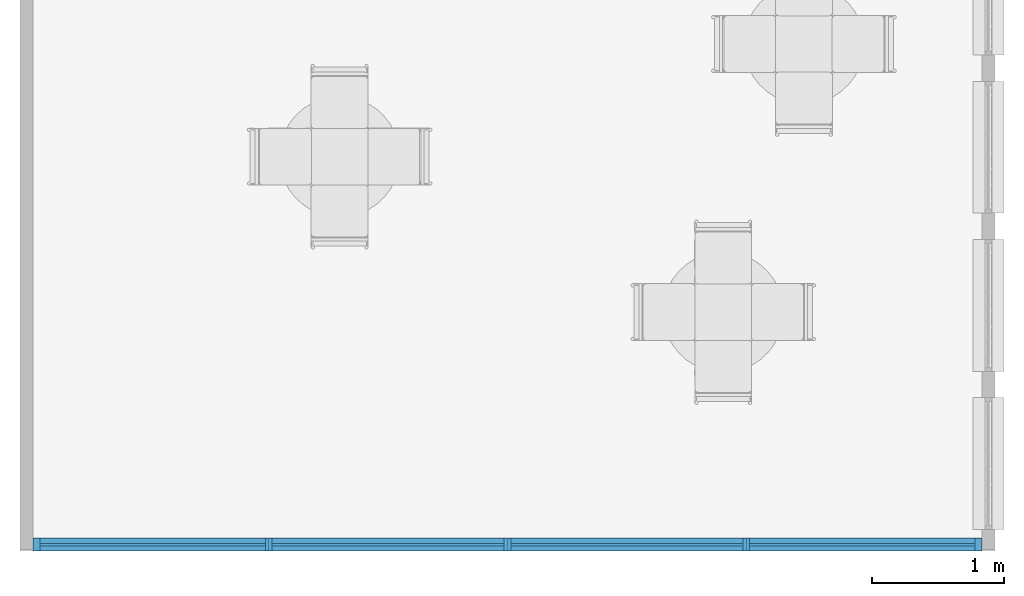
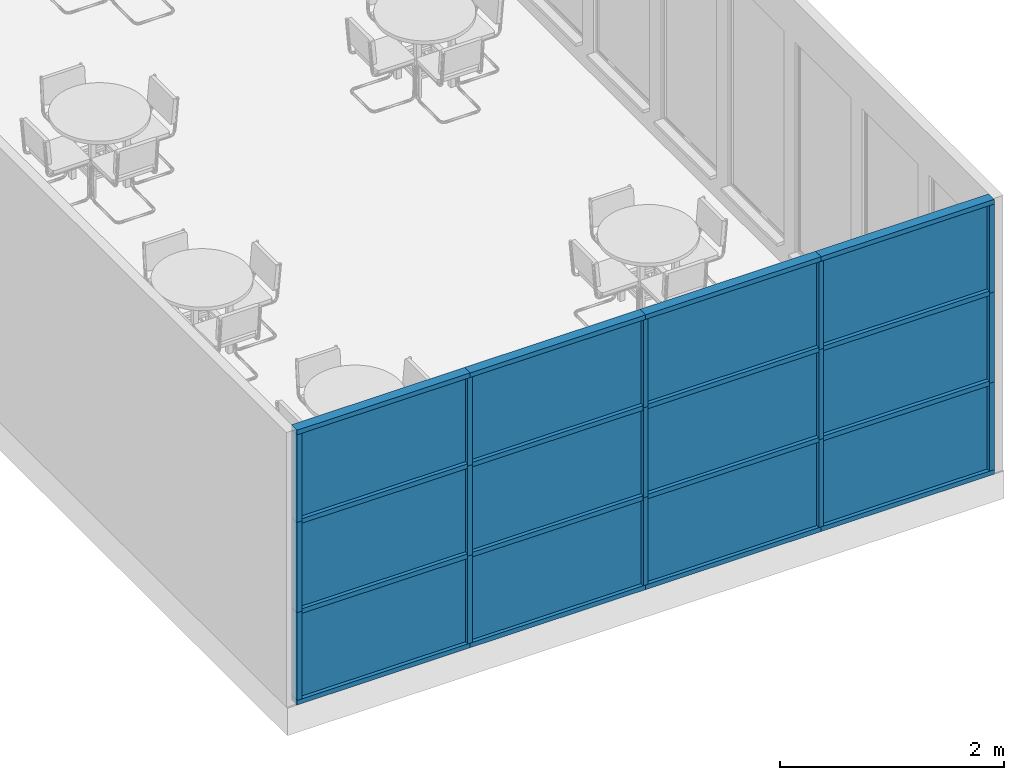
# One storey, part 1 of 11: 31 members, 12 plates, 1 element without a shape of its own.
"""IFC2X3 building model written with IfcOpenShell, lengths in metres."""

from ifc_helpers import new_model, entity, si_unit, converted_unit, derived_unit, direction, frame, origin, origin_2d_with_axis, place, context, subcontext, project, spatial, rectangle, extrude, source, transform, mapped, material, type_object, type_shapes, element, aggregate, save


model = new_model("IFC2X3")

# Units and contexts
model_context = context("Model", 3, precision=1e-05, world=origin(), true_north=direction((6.12303176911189e-17, 1.0)))
body_context = subcontext(model_context, "Body", "Model", "MODEL_VIEW")
ifc_project = project(units=[si_unit("LENGTHUNIT", "METRE"), si_unit("AREAUNIT", "SQUARE_METRE"), si_unit("VOLUMEUNIT", "CUBIC_METRE"), converted_unit("PLANEANGLEUNIT", "DEGREE", entity("IfcRatioMeasure", 0.0174532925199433), si_unit("PLANEANGLEUNIT", "RADIAN"), dimensions=[0, 0, 0, 0, 0, 0, 0]), si_unit("MASSUNIT", "GRAM", prefix="KILO"), derived_unit("MASSDENSITYUNIT", [(si_unit("MASSUNIT", "GRAM", prefix="KILO"), 1), (si_unit("LENGTHUNIT", "METRE"), -3)]), derived_unit("MOMENTOFINERTIAUNIT", [(si_unit("LENGTHUNIT", "METRE"), 4)]), si_unit("TIMEUNIT", "SECOND"), si_unit("FREQUENCYUNIT", "HERTZ"), si_unit("THERMODYNAMICTEMPERATUREUNIT", "DEGREE_CELSIUS"), derived_unit("THERMALTRANSMITTANCEUNIT", [(si_unit("MASSUNIT", "GRAM", prefix="KILO"), 1), (si_unit("THERMODYNAMICTEMPERATUREUNIT", "KELVIN"), -1), (si_unit("TIMEUNIT", "SECOND"), -3)]), derived_unit("VOLUMETRICFLOWRATEUNIT", [(si_unit("LENGTHUNIT", "METRE"), 3), (si_unit("TIMEUNIT", "SECOND"), -1)]), si_unit("ELECTRICCURRENTUNIT", "AMPERE"), si_unit("ELECTRICVOLTAGEUNIT", "VOLT"), si_unit("POWERUNIT", "WATT"), si_unit("FORCEUNIT", "NEWTON", prefix="KILO"), si_unit("ILLUMINANCEUNIT", "LUX"), si_unit("LUMINOUSFLUXUNIT", "LUMEN"), si_unit("LUMINOUSINTENSITYUNIT", "CANDELA"), derived_unit("USERDEFINED", [(si_unit("MASSUNIT", "GRAM", prefix="KILO"), -1), (si_unit("LENGTHUNIT", "METRE"), -2), (si_unit("TIMEUNIT", "SECOND"), 3), (si_unit("LUMINOUSFLUXUNIT", "LUMEN"), 1)]), derived_unit("LINEARVELOCITYUNIT", [(si_unit("LENGTHUNIT", "METRE"), 1), (si_unit("TIMEUNIT", "SECOND"), -1)]), si_unit("PRESSUREUNIT", "PASCAL"), derived_unit("USERDEFINED", [(si_unit("LENGTHUNIT", "METRE"), -2), (si_unit("MASSUNIT", "GRAM", prefix="KILO"), 1), (si_unit("TIMEUNIT", "SECOND"), -2)]), derived_unit("LINEARFORCEUNIT", [(si_unit("MASSUNIT", "GRAM", prefix="KILO"), 1), (si_unit("LENGTHUNIT", "METRE"), 1), (si_unit("TIMEUNIT", "SECOND"), -2), (si_unit("LENGTHUNIT", "METRE"), -1)]), derived_unit("PLANARFORCEUNIT", [(si_unit("MASSUNIT", "GRAM", prefix="KILO"), 1), (si_unit("LENGTHUNIT", "METRE"), 1), (si_unit("TIMEUNIT", "SECOND"), -2), (si_unit("LENGTHUNIT", "METRE"), -2)])], contexts=[model_context])

# Site, building, storey
site_placement = place(None, origin())
site = spatial("IfcSite", under=ifc_project, at=site_placement, Name="Default", CompositionType="ELEMENT")
building_placement = place(site_placement, origin())
building = spatial("IfcBuilding", under=site, at=building_placement, CompositionType="ELEMENT")
storey_placement = place(building_placement, origin())
storey = spatial("IfcBuildingStorey", under=building, at=storey_placement, Name="Nivel 1", CompositionType="ELEMENT", Elevation=0.0)

# Curtain wall, members, plates
curtain_wall_type = type_object("IfcCurtainWallType", Name="Muro cortina:Muro cortina - 300 x 200 cm", PredefinedType="NOTDEFINED")
curtain_wall_placement = place(storey_placement, origin())
curtain_wall = element("IfcCurtainWall", 1, at=curtain_wall_placement, inside=storey, type_object=curtain_wall_type, Name="Muro cortina:Muro cortina - 300 x 200 cm", ObjectType="Muro cortina:Muro cortina - 300 x 200 cm")
ifc_material_1 = material(Name="<Unnamed>")
member_type_1 = type_object("IfcMemberType", Name="Montante rectangular:Montante rectangular - 5 x 10 cm", PredefinedType="MULLION", material=ifc_material_1)
shared_shape_1 = source(origin(), body_context, "Body", "SweptSolid", [
    extrude(rectangle(XDim=0.1, YDim=0.05, at=origin_2d_with_axis()), frame((-0.025, 0.0, -0.958333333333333), z_axis=(0.0, 0.0, 1.0), x_axis=(0.0, -1.0, 0.0)), (0.0, 0.0, 1.0), 0.958333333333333),
])
type_shapes(member_type_1, [shared_shape_1])
member_1_placement = place(storey_placement, frame((3.11695689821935, -7.46501707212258, 0.05), z_axis=(0.0, 0.0, -1.0), x_axis=(1.0, 0.0, 0.0)))
member_1 = element("IfcMember", 2, at=member_1_placement, type_object=member_type_1, Name="Montante rectangular:Montante rectangular - 5 x 10 cm", ObjectType="Montante rectangular:Montante rectangular - 5 x 10 cm", context=body_context, shape_type="MappedRepresentation", body=[
    mapped(shared_shape_1, transform((0.0, 0.0, 0.0), scale=1.0)),
])
member_type_2 = type_object("IfcMemberType", Name="Montante rectangular:Montante rectangular - 5 x 10 cm", PredefinedType="MULLION", material=ifc_material_1)
shared_shape_2 = source(origin(), body_context, "Body", "SweptSolid", [
    extrude(rectangle(XDim=0.1, YDim=0.05, at=origin_2d_with_axis()), frame((-0.025, 0.0, -0.958333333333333), z_axis=(0.0, 0.0, 1.0), x_axis=(0.0, -1.0, 0.0)), (0.0, 0.0, 1.0), 0.958333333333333),
])
type_shapes(member_type_2, [shared_shape_2])
member_2_placement = place(storey_placement, frame((-4.08304310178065, -7.46501707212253, 2.95), z_axis=(0.0, 0.0, 1.0), x_axis=(-1.0, 0.0, 0.0)))
member_2 = element("IfcMember", 3, at=member_2_placement, type_object=member_type_2, Name="Montante rectangular:Montante rectangular - 5 x 10 cm", ObjectType="Montante rectangular:Montante rectangular - 5 x 10 cm", context=body_context, shape_type="MappedRepresentation", body=[
    mapped(shared_shape_2, transform((0.0, 0.0, 0.0), scale=1.0)),
])
member_type_3 = type_object("IfcMemberType", Name="Montante rectangular:Montante rectangular - 5 x 10 cm", PredefinedType="MULLION", material=ifc_material_1)
shared_shape_3 = source(origin(), body_context, "Body", "SweptSolid", [
    extrude(rectangle(XDim=0.1, YDim=0.05, at=origin_2d_with_axis()), frame((0.0, 0.0, -0.958333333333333), z_axis=(0.0, 0.0, 1.0), x_axis=(0.0, -1.0, 0.0)), (0.0, 0.0, 1.0), 0.958333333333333),
])
type_shapes(member_type_3, [shared_shape_3])
member_3_placement = place(storey_placement, frame((-2.29554310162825, -7.46501707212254, 0.05), z_axis=(0.0, 0.0, -1.0), x_axis=(1.0, 0.0, 0.0)))
member_3 = element("IfcMember", 4, at=member_3_placement, type_object=member_type_3, Name="Montante rectangular:Montante rectangular - 5 x 10 cm", ObjectType="Montante rectangular:Montante rectangular - 5 x 10 cm", context=body_context, shape_type="MappedRepresentation", body=[
    mapped(shared_shape_3, transform((0.0, 0.0, 0.0), scale=1.0)),
])
member_4_placement = place(storey_placement, frame((-0.483043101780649, -7.46501707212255, 0.05), z_axis=(0.0, 0.0, -1.0), x_axis=(1.0, 0.0, 0.0)))
member_4 = element("IfcMember", 5, at=member_4_placement, type_object=member_type_3, Name="Montante rectangular:Montante rectangular - 5 x 10 cm", ObjectType="Montante rectangular:Montante rectangular - 5 x 10 cm", context=body_context, shape_type="MappedRepresentation", body=[
    mapped(shared_shape_3, transform((0.0, 0.0, 0.0), scale=1.0)),
])
member_5_placement = place(storey_placement, frame((1.32945689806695, -7.46501707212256, 0.05), z_axis=(0.0, 0.0, -1.0), x_axis=(1.0, 0.0, 0.0)))
member_5 = element("IfcMember", 6, at=member_5_placement, type_object=member_type_3, Name="Montante rectangular:Montante rectangular - 5 x 10 cm", ObjectType="Montante rectangular:Montante rectangular - 5 x 10 cm", context=body_context, shape_type="MappedRepresentation", body=[
    mapped(shared_shape_3, transform((0.0, 0.0, 0.0), scale=1.0)),
])
member_type_4 = type_object("IfcMemberType", Name="Montante rectangular:Montante rectangular - 5 x 10 cm", PredefinedType="MULLION", material=ifc_material_1)
shared_shape_4 = source(origin(), body_context, "Body", "SweptSolid", [
    extrude(rectangle(XDim=0.1, YDim=0.05, at=origin_2d_with_axis()), frame((-0.025, 0.0, -0.983333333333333), z_axis=(0.0, 0.0, 1.0), x_axis=(0.0, -1.0, 0.0)), (0.0, 0.0, 1.0), 0.983333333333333),
])
type_shapes(member_type_4, [shared_shape_4])
member_6_placement = place(storey_placement, frame((3.11695689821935, -7.46501707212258, 1.00833333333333), z_axis=(0.0, 0.0, -1.0), x_axis=(1.0, 0.0, 0.0)))
member_6 = element("IfcMember", 7, at=member_6_placement, type_object=member_type_4, Name="Montante rectangular:Montante rectangular - 5 x 10 cm", ObjectType="Montante rectangular:Montante rectangular - 5 x 10 cm", context=body_context, shape_type="MappedRepresentation", body=[
    mapped(shared_shape_4, transform((0.0, 0.0, 0.0), scale=1.0)),
])
member_type_5 = type_object("IfcMemberType", Name="Montante rectangular:Montante rectangular - 5 x 10 cm", PredefinedType="MULLION", material=ifc_material_1)
shared_shape_5 = source(origin(), body_context, "Body", "SweptSolid", [
    extrude(rectangle(XDim=0.1, YDim=0.05, at=origin_2d_with_axis()), frame((-0.025, 0.0, -0.958333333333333), z_axis=(0.0, 0.0, 1.0), x_axis=(0.0, -1.0, 0.0)), (0.0, 0.0, 1.0), 0.958333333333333),
])
type_shapes(member_type_5, [shared_shape_5])
member_7_placement = place(storey_placement, frame((3.11695689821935, -7.46501707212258, 1.99166666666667), z_axis=(0.0, 0.0, -1.0), x_axis=(1.0, 0.0, 0.0)))
member_7 = element("IfcMember", 8, at=member_7_placement, type_object=member_type_5, Name="Montante rectangular:Montante rectangular - 5 x 10 cm", ObjectType="Montante rectangular:Montante rectangular - 5 x 10 cm", context=body_context, shape_type="MappedRepresentation", body=[
    mapped(shared_shape_5, transform((0.0, 0.0, 0.0), scale=1.0)),
])
member_type_6 = type_object("IfcMemberType", Name="Montante rectangular:Montante rectangular - 5 x 10 cm", PredefinedType="MULLION", material=ifc_material_1)
shared_shape_6 = source(origin(), body_context, "Body", "SweptSolid", [
    extrude(rectangle(XDim=0.1, YDim=0.05, at=origin_2d_with_axis()), frame((-0.025, 0.0, -0.958333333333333), z_axis=(0.0, 0.0, 1.0), x_axis=(0.0, -1.0, 0.0)), (0.0, 0.0, 1.0), 0.958333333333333),
])
type_shapes(member_type_6, [shared_shape_6])
member_8_placement = place(storey_placement, frame((-4.08304310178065, -7.46501707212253, 1.00833333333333), z_axis=(0.0, 0.0, 1.0), x_axis=(-1.0, 0.0, 0.0)))
member_8 = element("IfcMember", 9, at=member_8_placement, type_object=member_type_6, Name="Montante rectangular:Montante rectangular - 5 x 10 cm", ObjectType="Montante rectangular:Montante rectangular - 5 x 10 cm", context=body_context, shape_type="MappedRepresentation", body=[
    mapped(shared_shape_6, transform((0.0, 0.0, 0.0), scale=1.0)),
])
member_type_7 = type_object("IfcMemberType", Name="Montante rectangular:Montante rectangular - 5 x 10 cm", PredefinedType="MULLION", material=ifc_material_1)
shared_shape_7 = source(origin(), body_context, "Body", "SweptSolid", [
    extrude(rectangle(XDim=0.1, YDim=0.05, at=origin_2d_with_axis()), frame((-0.025, 0.0, -0.983333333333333), z_axis=(0.0, 0.0, 1.0), x_axis=(0.0, -1.0, 0.0)), (0.0, 0.0, 1.0), 0.983333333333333),
])
type_shapes(member_type_7, [shared_shape_7])
member_9_placement = place(storey_placement, frame((-4.08304310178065, -7.46501707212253, 1.99166666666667), z_axis=(0.0, 0.0, 1.0), x_axis=(-1.0, 0.0, 0.0)))
member_9 = element("IfcMember", 10, at=member_9_placement, type_object=member_type_7, Name="Montante rectangular:Montante rectangular - 5 x 10 cm", ObjectType="Montante rectangular:Montante rectangular - 5 x 10 cm", context=body_context, shape_type="MappedRepresentation", body=[
    mapped(shared_shape_7, transform((0.0, 0.0, 0.0), scale=1.0)),
])
member_type_8 = type_object("IfcMemberType", Name="Montante rectangular:Montante rectangular - 5 x 10 cm", PredefinedType="MULLION", material=ifc_material_1)
shared_shape_8 = source(origin(), body_context, "Body", "SweptSolid", [
    extrude(rectangle(XDim=0.1, YDim=0.05, at=origin_2d_with_axis()), frame((0.0, 0.0, -0.983333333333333), z_axis=(0.0, 0.0, 1.0), x_axis=(0.0, -1.0, 0.0)), (0.0, 0.0, 1.0), 0.983333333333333),
])
type_shapes(member_type_8, [shared_shape_8])
member_10_placement = place(storey_placement, frame((-2.29554310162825, -7.46501707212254, 1.00833333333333), z_axis=(0.0, 0.0, -1.0), x_axis=(1.0, 0.0, 0.0)))
member_10 = element("IfcMember", 11, at=member_10_placement, type_object=member_type_8, Name="Montante rectangular:Montante rectangular - 5 x 10 cm", ObjectType="Montante rectangular:Montante rectangular - 5 x 10 cm", context=body_context, shape_type="MappedRepresentation", body=[
    mapped(shared_shape_8, transform((0.0, 0.0, 0.0), scale=1.0)),
])
member_11_placement = place(storey_placement, frame((-0.483043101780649, -7.46501707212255, 1.00833333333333), z_axis=(0.0, 0.0, -1.0), x_axis=(1.0, 0.0, 0.0)))
member_11 = element("IfcMember", 12, at=member_11_placement, type_object=member_type_8, Name="Montante rectangular:Montante rectangular - 5 x 10 cm", ObjectType="Montante rectangular:Montante rectangular - 5 x 10 cm", context=body_context, shape_type="MappedRepresentation", body=[
    mapped(shared_shape_8, transform((0.0, 0.0, 0.0), scale=1.0)),
])
member_12_placement = place(storey_placement, frame((1.32945689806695, -7.46501707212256, 1.00833333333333), z_axis=(0.0, 0.0, -1.0), x_axis=(1.0, 0.0, 0.0)))
member_12 = element("IfcMember", 13, at=member_12_placement, type_object=member_type_8, Name="Montante rectangular:Montante rectangular - 5 x 10 cm", ObjectType="Montante rectangular:Montante rectangular - 5 x 10 cm", context=body_context, shape_type="MappedRepresentation", body=[
    mapped(shared_shape_8, transform((0.0, 0.0, 0.0), scale=1.0)),
])
member_type_9 = type_object("IfcMemberType", Name="Montante rectangular:Montante rectangular - 5 x 10 cm", PredefinedType="MULLION", material=ifc_material_1)
shared_shape_9 = source(origin(), body_context, "Body", "SweptSolid", [
    extrude(rectangle(XDim=0.1, YDim=0.05, at=origin_2d_with_axis()), frame((0.0, 0.0, -0.958333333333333), z_axis=(0.0, 0.0, 1.0), x_axis=(0.0, -1.0, 0.0)), (0.0, 0.0, 1.0), 0.958333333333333),
])
type_shapes(member_type_9, [shared_shape_9])
member_13_placement = place(storey_placement, frame((-2.29554310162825, -7.46501707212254, 1.99166666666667), z_axis=(0.0, 0.0, -1.0), x_axis=(1.0, 0.0, 0.0)))
member_13 = element("IfcMember", 14, at=member_13_placement, type_object=member_type_9, Name="Montante rectangular:Montante rectangular - 5 x 10 cm", ObjectType="Montante rectangular:Montante rectangular - 5 x 10 cm", context=body_context, shape_type="MappedRepresentation", body=[
    mapped(shared_shape_9, transform((0.0, 0.0, 0.0), scale=1.0)),
])
member_14_placement = place(storey_placement, frame((-0.48304310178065, -7.46501707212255, 1.99166666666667), z_axis=(0.0, 0.0, -1.0), x_axis=(1.0, 0.0, 0.0)))
member_14 = element("IfcMember", 15, at=member_14_placement, type_object=member_type_9, Name="Montante rectangular:Montante rectangular - 5 x 10 cm", ObjectType="Montante rectangular:Montante rectangular - 5 x 10 cm", context=body_context, shape_type="MappedRepresentation", body=[
    mapped(shared_shape_9, transform((0.0, 0.0, 0.0), scale=1.0)),
])
member_15_placement = place(storey_placement, frame((1.32945689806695, -7.46501707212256, 1.99166666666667), z_axis=(0.0, 0.0, -1.0), x_axis=(1.0, 0.0, 0.0)))
member_15 = element("IfcMember", 16, at=member_15_placement, type_object=member_type_9, Name="Montante rectangular:Montante rectangular - 5 x 10 cm", ObjectType="Montante rectangular:Montante rectangular - 5 x 10 cm", context=body_context, shape_type="MappedRepresentation", body=[
    mapped(shared_shape_9, transform((0.0, 0.0, 0.0), scale=1.0)),
])
member_type_10 = type_object("IfcMemberType", Name="Montante rectangular:Montante rectangular - 5 x 10 cm", PredefinedType="MULLION", material=ifc_material_1)
shared_shape_10 = source(origin(), body_context, "Body", "SweptSolid", [
    extrude(rectangle(XDim=0.1, YDim=0.05, at=origin_2d_with_axis()), frame((0.0, 0.0, -1.7125000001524), z_axis=(0.0, 0.0, 1.0), x_axis=(0.0, -1.0, 0.0)), (0.0, 0.0, 1.0), 1.7125000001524),
])
type_shapes(member_type_10, [shared_shape_10])
member_16_placement = place(storey_placement, frame((-2.32054310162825, -7.46501707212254, 1.00833333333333), z_axis=(1.0, 0.0, 0.0), x_axis=(0.0, 0.0, 1.0)))
member_16 = element("IfcMember", 17, at=member_16_placement, type_object=member_type_10, Name="Montante rectangular:Montante rectangular - 5 x 10 cm", ObjectType="Montante rectangular:Montante rectangular - 5 x 10 cm", context=body_context, shape_type="MappedRepresentation", body=[
    mapped(shared_shape_10, transform((0.0, 0.0, 0.0), scale=1.0)),
])
member_17_placement = place(storey_placement, frame((3.06695689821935, -7.46501707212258, 1.00833333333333), z_axis=(1.0, 0.0, 0.0), x_axis=(0.0, 0.0, 1.0)))
member_17 = element("IfcMember", 18, at=member_17_placement, type_object=member_type_10, Name="Montante rectangular:Montante rectangular - 5 x 10 cm", ObjectType="Montante rectangular:Montante rectangular - 5 x 10 cm", context=body_context, shape_type="MappedRepresentation", body=[
    mapped(shared_shape_10, transform((0.0, 0.0, 0.0), scale=1.0)),
])
member_18_placement = place(storey_placement, frame((-2.32054310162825, -7.46501707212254, 1.99166666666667), z_axis=(1.0, 0.0, 0.0), x_axis=(0.0, 0.0, 1.0)))
member_18 = element("IfcMember", 19, at=member_18_placement, type_object=member_type_10, Name="Montante rectangular:Montante rectangular - 5 x 10 cm", ObjectType="Montante rectangular:Montante rectangular - 5 x 10 cm", context=body_context, shape_type="MappedRepresentation", body=[
    mapped(shared_shape_10, transform((0.0, 0.0, 0.0), scale=1.0)),
])
member_19_placement = place(storey_placement, frame((3.06695689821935, -7.46501707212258, 1.99166666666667), z_axis=(1.0, 0.0, 0.0), x_axis=(0.0, 0.0, 1.0)))
member_19 = element("IfcMember", 20, at=member_19_placement, type_object=member_type_10, Name="Montante rectangular:Montante rectangular - 5 x 10 cm", ObjectType="Montante rectangular:Montante rectangular - 5 x 10 cm", context=body_context, shape_type="MappedRepresentation", body=[
    mapped(shared_shape_10, transform((0.0, 0.0, 0.0), scale=1.0)),
])
member_type_11 = type_object("IfcMemberType", Name="Montante rectangular:Montante rectangular - 5 x 10 cm", PredefinedType="MULLION", material=ifc_material_1)
shared_shape_11 = source(origin(), body_context, "Body", "SweptSolid", [
    extrude(rectangle(XDim=0.1, YDim=0.05, at=origin_2d_with_axis()), frame((0.0, 0.0, -1.7624999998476), z_axis=(0.0, 0.0, 1.0), x_axis=(0.0, -1.0, 0.0)), (0.0, 0.0, 1.0), 1.7624999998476),
])
type_shapes(member_type_11, [shared_shape_11])
member_20_placement = place(storey_placement, frame((-0.508043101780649, -7.46501707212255, 1.00833333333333), z_axis=(1.0, 0.0, 0.0), x_axis=(0.0, 0.0, 1.0)))
member_20 = element("IfcMember", 21, at=member_20_placement, type_object=member_type_11, Name="Montante rectangular:Montante rectangular - 5 x 10 cm", ObjectType="Montante rectangular:Montante rectangular - 5 x 10 cm", context=body_context, shape_type="MappedRepresentation", body=[
    mapped(shared_shape_11, transform((0.0, 0.0, 0.0), scale=1.0)),
])
member_21_placement = place(storey_placement, frame((1.30445689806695, -7.46501707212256, 1.00833333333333), z_axis=(1.0, 0.0, 0.0), x_axis=(0.0, 0.0, 1.0)))
member_21 = element("IfcMember", 22, at=member_21_placement, type_object=member_type_11, Name="Montante rectangular:Montante rectangular - 5 x 10 cm", ObjectType="Montante rectangular:Montante rectangular - 5 x 10 cm", context=body_context, shape_type="MappedRepresentation", body=[
    mapped(shared_shape_11, transform((0.0, 0.0, 0.0), scale=1.0)),
])
member_22_placement = place(storey_placement, frame((-0.50804310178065, -7.46501707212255, 1.99166666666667), z_axis=(1.0, 0.0, 0.0), x_axis=(0.0, 0.0, 1.0)))
member_22 = element("IfcMember", 23, at=member_22_placement, type_object=member_type_11, Name="Montante rectangular:Montante rectangular - 5 x 10 cm", ObjectType="Montante rectangular:Montante rectangular - 5 x 10 cm", context=body_context, shape_type="MappedRepresentation", body=[
    mapped(shared_shape_11, transform((0.0, 0.0, 0.0), scale=1.0)),
])
member_23_placement = place(storey_placement, frame((1.30445689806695, -7.46501707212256, 1.99166666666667), z_axis=(1.0, 0.0, 0.0), x_axis=(0.0, 0.0, 1.0)))
member_23 = element("IfcMember", 24, at=member_23_placement, type_object=member_type_11, Name="Montante rectangular:Montante rectangular - 5 x 10 cm", ObjectType="Montante rectangular:Montante rectangular - 5 x 10 cm", context=body_context, shape_type="MappedRepresentation", body=[
    mapped(shared_shape_11, transform((0.0, 0.0, 0.0), scale=1.0)),
])
member_type_12 = type_object("IfcMemberType", Name="Montante rectangular:Montante rectangular - 5 x 10 cm", PredefinedType="MULLION", material=ifc_material_1)
shared_shape_12 = source(origin(), body_context, "Body", "SweptSolid", [
    extrude(rectangle(XDim=0.1, YDim=0.05, at=origin_2d_with_axis()), frame((-0.025, 0.0, -1.7875000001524), z_axis=(0.0, 0.0, 1.0), x_axis=(0.0, -1.0, 0.0)), (0.0, 0.0, 1.0), 1.7875000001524),
])
type_shapes(member_type_12, [shared_shape_12])
member_24_placement = place(storey_placement, frame((3.11695689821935, -7.46501707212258, 3.0), z_axis=(1.0, 0.0, 0.0), x_axis=(0.0, 0.0, 1.0)))
member_24 = element("IfcMember", 25, at=member_24_placement, type_object=member_type_12, Name="Montante rectangular:Montante rectangular - 5 x 10 cm", ObjectType="Montante rectangular:Montante rectangular - 5 x 10 cm", context=body_context, shape_type="MappedRepresentation", body=[
    mapped(shared_shape_12, transform((0.0, 0.0, 0.0), scale=1.0)),
])
member_type_13 = type_object("IfcMemberType", Name="Montante rectangular:Montante rectangular - 5 x 10 cm", PredefinedType="MULLION", material=ifc_material_1)
shared_shape_13 = source(origin(), body_context, "Body", "SweptSolid", [
    extrude(rectangle(XDim=0.1, YDim=0.05, at=origin_2d_with_axis()), frame((-0.025, 0.0, -1.7875000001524), z_axis=(0.0, 0.0, 1.0), x_axis=(0.0, -1.0, 0.0)), (0.0, 0.0, 1.0), 1.7875000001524),
])
type_shapes(member_type_13, [shared_shape_13])
member_25_placement = place(storey_placement, frame((-2.29554310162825, -7.46501707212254, 3.0), z_axis=(1.0, 0.0, 0.0), x_axis=(0.0, 0.0, 1.0)))
member_25 = element("IfcMember", 26, at=member_25_placement, type_object=member_type_13, Name="Montante rectangular:Montante rectangular - 5 x 10 cm", ObjectType="Montante rectangular:Montante rectangular - 5 x 10 cm", context=body_context, shape_type="MappedRepresentation", body=[
    mapped(shared_shape_13, transform((0.0, 0.0, 0.0), scale=1.0)),
])
member_type_14 = type_object("IfcMemberType", Name="Montante rectangular:Montante rectangular - 5 x 10 cm", PredefinedType="MULLION", material=ifc_material_1)
shared_shape_14 = source(origin(), body_context, "Body", "SweptSolid", [
    extrude(rectangle(XDim=0.1, YDim=0.05, at=origin_2d_with_axis()), frame((-0.025, 0.0, -1.8124999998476), z_axis=(0.0, 0.0, 1.0), x_axis=(0.0, -1.0, 0.0)), (0.0, 0.0, 1.0), 1.8124999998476),
])
type_shapes(member_type_14, [shared_shape_14])
member_26_placement = place(storey_placement, frame((-0.48304310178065, -7.46501707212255, 3.0), z_axis=(1.0, 0.0, 0.0), x_axis=(0.0, 0.0, 1.0)))
member_26 = element("IfcMember", 27, at=member_26_placement, type_object=member_type_14, Name="Montante rectangular:Montante rectangular - 5 x 10 cm", ObjectType="Montante rectangular:Montante rectangular - 5 x 10 cm", context=body_context, shape_type="MappedRepresentation", body=[
    mapped(shared_shape_14, transform((0.0, 0.0, 0.0), scale=1.0)),
])
member_27_placement = place(storey_placement, frame((1.32945689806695, -7.46501707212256, 3.0), z_axis=(1.0, 0.0, 0.0), x_axis=(0.0, 0.0, 1.0)))
member_27 = element("IfcMember", 28, at=member_27_placement, type_object=member_type_14, Name="Montante rectangular:Montante rectangular - 5 x 10 cm", ObjectType="Montante rectangular:Montante rectangular - 5 x 10 cm", context=body_context, shape_type="MappedRepresentation", body=[
    mapped(shared_shape_14, transform((0.0, 0.0, 0.0), scale=1.0)),
])
member_type_15 = type_object("IfcMemberType", Name="Montante rectangular:Montante rectangular - 5 x 10 cm", PredefinedType="MULLION", material=ifc_material_1)
shared_shape_15 = source(origin(), body_context, "Body", "SweptSolid", [
    extrude(rectangle(XDim=0.1, YDim=0.05, at=origin_2d_with_axis()), frame((-0.025, 0.0, -1.7875000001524), z_axis=(0.0, 0.0, 1.0), x_axis=(0.0, -1.0, 0.0)), (0.0, 0.0, 1.0), 1.7875000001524),
])
type_shapes(member_type_15, [shared_shape_15])
member_28_placement = place(storey_placement, frame((-4.08304310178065, -7.46501707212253, 0.0), z_axis=(-1.0, 0.0, 0.0), x_axis=(0.0, 0.0, -1.0)))
member_28 = element("IfcMember", 29, at=member_28_placement, type_object=member_type_15, Name="Montante rectangular:Montante rectangular - 5 x 10 cm", ObjectType="Montante rectangular:Montante rectangular - 5 x 10 cm", context=body_context, shape_type="MappedRepresentation", body=[
    mapped(shared_shape_15, transform((0.0, 0.0, 0.0), scale=1.0)),
])
member_type_16 = type_object("IfcMemberType", Name="Montante rectangular:Montante rectangular - 5 x 10 cm", PredefinedType="MULLION", material=ifc_material_1)
shared_shape_16 = source(origin(), body_context, "Body", "SweptSolid", [
    extrude(rectangle(XDim=0.1, YDim=0.05, at=origin_2d_with_axis()), frame((-0.025, 0.0, -1.8124999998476), z_axis=(0.0, 0.0, 1.0), x_axis=(0.0, -1.0, 0.0)), (0.0, 0.0, 1.0), 1.8124999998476),
])
type_shapes(member_type_16, [shared_shape_16])
member_29_placement = place(storey_placement, frame((-2.29554310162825, -7.46501707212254, 0.0), z_axis=(-1.0, 0.0, 0.0), x_axis=(0.0, 0.0, -1.0)))
member_29 = element("IfcMember", 30, at=member_29_placement, type_object=member_type_16, Name="Montante rectangular:Montante rectangular - 5 x 10 cm", ObjectType="Montante rectangular:Montante rectangular - 5 x 10 cm", context=body_context, shape_type="MappedRepresentation", body=[
    mapped(shared_shape_16, transform((0.0, 0.0, 0.0), scale=1.0)),
])
member_30_placement = place(storey_placement, frame((-0.483043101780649, -7.46501707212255, 0.0), z_axis=(-1.0, 0.0, 0.0), x_axis=(0.0, 0.0, -1.0)))
member_30 = element("IfcMember", 31, at=member_30_placement, type_object=member_type_16, Name="Montante rectangular:Montante rectangular - 5 x 10 cm", ObjectType="Montante rectangular:Montante rectangular - 5 x 10 cm", context=body_context, shape_type="MappedRepresentation", body=[
    mapped(shared_shape_16, transform((0.0, 0.0, 0.0), scale=1.0)),
])
member_type_17 = type_object("IfcMemberType", Name="Montante rectangular:Montante rectangular - 5 x 10 cm", PredefinedType="MULLION", material=ifc_material_1)
shared_shape_17 = source(origin(), body_context, "Body", "SweptSolid", [
    extrude(rectangle(XDim=0.1, YDim=0.05, at=origin_2d_with_axis()), frame((-0.025, 0.0, -1.7875000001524), z_axis=(0.0, 0.0, 1.0), x_axis=(0.0, -1.0, 0.0)), (0.0, 0.0, 1.0), 1.7875000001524),
])
type_shapes(member_type_17, [shared_shape_17])
member_31_placement = place(storey_placement, frame((1.32945689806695, -7.46501707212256, 0.0), z_axis=(-1.0, 0.0, 0.0), x_axis=(0.0, 0.0, -1.0)))
member_31 = element("IfcMember", 32, at=member_31_placement, type_object=member_type_17, Name="Montante rectangular:Montante rectangular - 5 x 10 cm", ObjectType="Montante rectangular:Montante rectangular - 5 x 10 cm", context=body_context, shape_type="MappedRepresentation", body=[
    mapped(shared_shape_17, transform((0.0, 0.0, 0.0), scale=1.0)),
])
ifc_material_2 = material(Name="Cristal")
plate_type_1 = type_object("IfcPlateType", Name="Panel de sistema:Acristalado", PredefinedType="CURTAIN_PANEL", material=ifc_material_2)
shared_shape_18 = source(origin(), body_context, "Body", "SweptSolid", [
    extrude(rectangle(XDim=0.02, YDim=1.7125000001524, at=origin_2d_with_axis()), frame((0.0, 0.0, 0.0), z_axis=(0.0, 0.0, 1.0), x_axis=(0.0, 1.0, 0.0)), (0.0, 0.0, 1.0), 0.933333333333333),
])
type_shapes(plate_type_1, [shared_shape_18])
plate_1_placement = place(curtain_wall_placement, frame((-3.17679310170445, -7.46501707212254, 0.05)))
plate_1 = element("IfcPlate", 33, at=plate_1_placement, type_object=plate_type_1, material=ifc_material_2, Name="Panel de sistema:Acristalado", ObjectType="Panel de sistema:Acristalado", context=body_context, shape_type="MappedRepresentation", body=[
    mapped(shared_shape_18, transform((0.0, 0.0, 0.0), scale=1.0)),
])
plate_2_placement = place(curtain_wall_placement, frame((2.21070689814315, -7.46501707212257, 0.05)))
plate_2 = element("IfcPlate", 34, at=plate_2_placement, type_object=plate_type_1, material=ifc_material_2, Name="Panel de sistema:Acristalado", ObjectType="Panel de sistema:Acristalado", context=body_context, shape_type="MappedRepresentation", body=[
    mapped(shared_shape_18, transform((0.0, 0.0, 0.0), scale=1.0)),
])
plate_3_placement = place(curtain_wall_placement, frame((-3.17679310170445, -7.46501707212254, 1.03333333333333)))
plate_3 = element("IfcPlate", 35, at=plate_3_placement, type_object=plate_type_1, material=ifc_material_2, Name="Panel de sistema:Acristalado", ObjectType="Panel de sistema:Acristalado", context=body_context, shape_type="MappedRepresentation", body=[
    mapped(shared_shape_18, transform((0.0, 0.0, 0.0), scale=1.0)),
])
plate_4_placement = place(curtain_wall_placement, frame((2.21070689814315, -7.46501707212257, 1.03333333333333)))
plate_4 = element("IfcPlate", 36, at=plate_4_placement, type_object=plate_type_1, material=ifc_material_2, Name="Panel de sistema:Acristalado", ObjectType="Panel de sistema:Acristalado", context=body_context, shape_type="MappedRepresentation", body=[
    mapped(shared_shape_18, transform((0.0, 0.0, 0.0), scale=1.0)),
])
plate_5_placement = place(curtain_wall_placement, frame((-3.17679310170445, -7.46501707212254, 2.01666666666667)))
plate_5 = element("IfcPlate", 37, at=plate_5_placement, type_object=plate_type_1, material=ifc_material_2, Name="Panel de sistema:Acristalado", ObjectType="Panel de sistema:Acristalado", context=body_context, shape_type="MappedRepresentation", body=[
    mapped(shared_shape_18, transform((0.0, 0.0, 0.0), scale=1.0)),
])
plate_6_placement = place(curtain_wall_placement, frame((2.21070689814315, -7.46501707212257, 2.01666666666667)))
plate_6 = element("IfcPlate", 38, at=plate_6_placement, type_object=plate_type_1, material=ifc_material_2, Name="Panel de sistema:Acristalado", ObjectType="Panel de sistema:Acristalado", context=body_context, shape_type="MappedRepresentation", body=[
    mapped(shared_shape_18, transform((0.0, 0.0, 0.0), scale=1.0)),
])
plate_type_2 = type_object("IfcPlateType", Name="Panel de sistema:Acristalado", PredefinedType="CURTAIN_PANEL", material=ifc_material_2)
shared_shape_19 = source(origin(), body_context, "Body", "SweptSolid", [
    extrude(rectangle(XDim=0.02, YDim=1.7624999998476, at=origin_2d_with_axis()), frame((0.0, 0.0, 0.0), z_axis=(0.0, 0.0, 1.0), x_axis=(0.0, 1.0, 0.0)), (0.0, 0.0, 1.0), 0.933333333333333),
])
type_shapes(plate_type_2, [shared_shape_19])
plate_7_placement = place(curtain_wall_placement, frame((-1.38929310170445, -7.46501707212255, 0.05)))
plate_7 = element("IfcPlate", 39, at=plate_7_placement, type_object=plate_type_2, material=ifc_material_2, Name="Panel de sistema:Acristalado", ObjectType="Panel de sistema:Acristalado", context=body_context, shape_type="MappedRepresentation", body=[
    mapped(shared_shape_19, transform((0.0, 0.0, 0.0), scale=1.0)),
])
plate_8_placement = place(curtain_wall_placement, frame((0.423206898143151, -7.46501707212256, 0.05)))
plate_8 = element("IfcPlate", 40, at=plate_8_placement, type_object=plate_type_2, material=ifc_material_2, Name="Panel de sistema:Acristalado", ObjectType="Panel de sistema:Acristalado", context=body_context, shape_type="MappedRepresentation", body=[
    mapped(shared_shape_19, transform((0.0, 0.0, 0.0), scale=1.0)),
])
plate_9_placement = place(curtain_wall_placement, frame((-1.38929310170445, -7.46501707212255, 1.03333333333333)))
plate_9 = element("IfcPlate", 41, at=plate_9_placement, type_object=plate_type_2, material=ifc_material_2, Name="Panel de sistema:Acristalado", ObjectType="Panel de sistema:Acristalado", context=body_context, shape_type="MappedRepresentation", body=[
    mapped(shared_shape_19, transform((0.0, 0.0, 0.0), scale=1.0)),
])
plate_10_placement = place(curtain_wall_placement, frame((0.42320689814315, -7.46501707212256, 1.03333333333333)))
plate_10 = element("IfcPlate", 42, at=plate_10_placement, type_object=plate_type_2, material=ifc_material_2, Name="Panel de sistema:Acristalado", ObjectType="Panel de sistema:Acristalado", context=body_context, shape_type="MappedRepresentation", body=[
    mapped(shared_shape_19, transform((0.0, 0.0, 0.0), scale=1.0)),
])
plate_11_placement = place(curtain_wall_placement, frame((-1.38929310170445, -7.46501707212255, 2.01666666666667)))
plate_11 = element("IfcPlate", 43, at=plate_11_placement, type_object=plate_type_2, material=ifc_material_2, Name="Panel de sistema:Acristalado", ObjectType="Panel de sistema:Acristalado", context=body_context, shape_type="MappedRepresentation", body=[
    mapped(shared_shape_19, transform((0.0, 0.0, 0.0), scale=1.0)),
])
plate_12_placement = place(curtain_wall_placement, frame((0.42320689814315, -7.46501707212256, 2.01666666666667)))
plate_12 = element("IfcPlate", 44, at=plate_12_placement, type_object=plate_type_2, material=ifc_material_2, Name="Panel de sistema:Acristalado", ObjectType="Panel de sistema:Acristalado", context=body_context, shape_type="MappedRepresentation", body=[
    mapped(shared_shape_19, transform((0.0, 0.0, 0.0), scale=1.0)),
])
aggregate(curtain_wall, [plate_1, plate_7, plate_8, plate_2, plate_3, plate_9, plate_10, plate_4, plate_5, plate_11, plate_12, plate_6, member_1, member_2, member_3, member_4, member_5, member_6, member_7, member_8, member_9, member_10, member_13, member_11, member_14, member_12, member_15, member_16, member_20, member_21, member_17, member_18, member_22, member_23, member_19, member_24, member_25, member_26, member_27, member_28, member_29, member_30, member_31])

save(model, "model.ifc")
